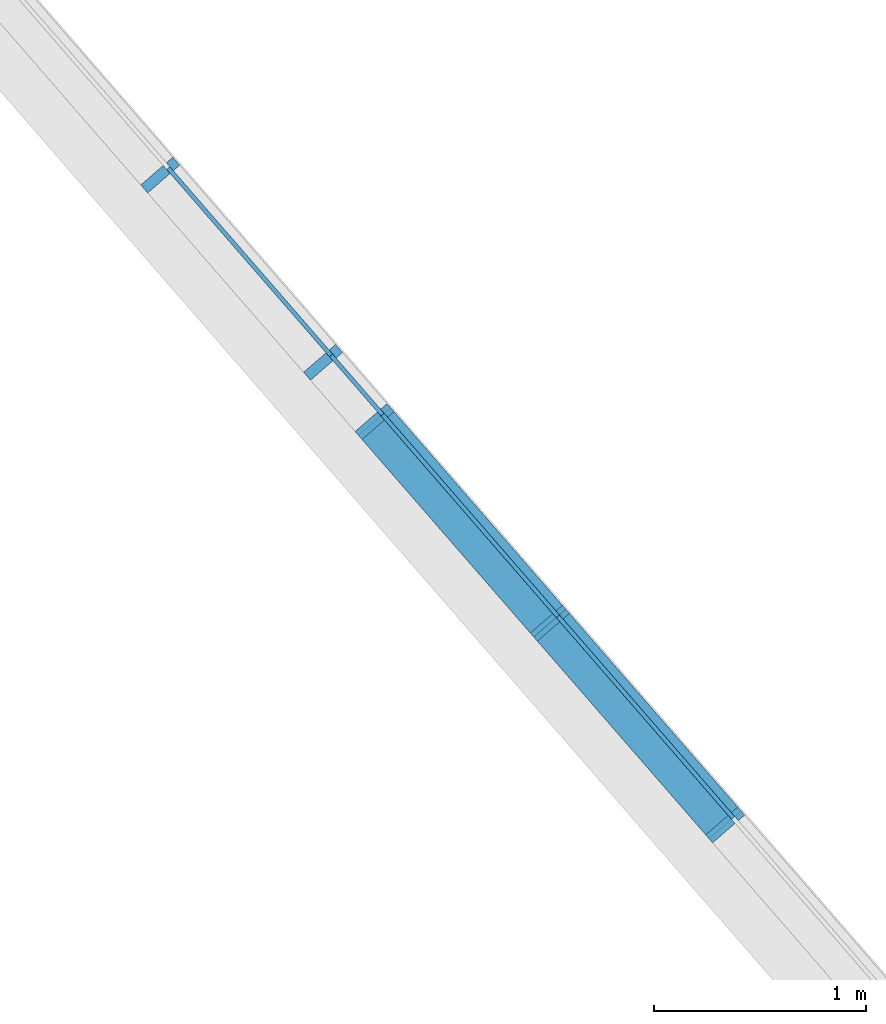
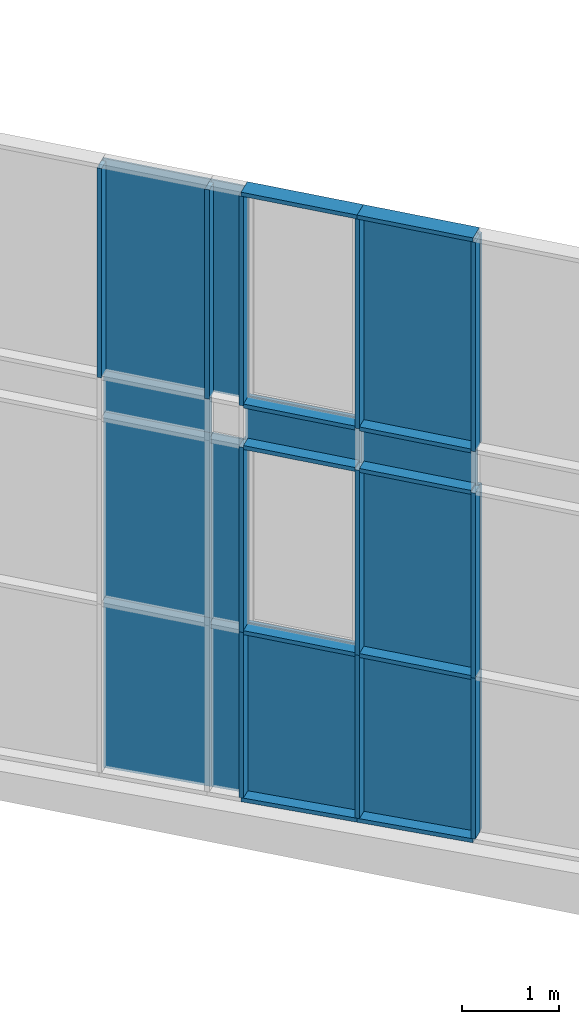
# One storey, part 49 of 390: 34 discrete accessories, 1 element without a shape of its own.
"""IFC2X3 building model written with IfcOpenShell, lengths in millimetres."""

import ifcopenshell
import ifcopenshell.guid

model = None  # the IFC model being written
_history = None  # IfcOwnerHistory: only IFC2X3 demands one
_inside = {}  # id of a spatial element -> (the spatial element, [elements in it])
_under = {}  # id of a project, library or spatial element -> (it, [spatial elements below it])
_declared = {}  # id of a project -> (the project, [libraries it declares])
_typed = {}  # id of a type object -> (the type object, [elements of that type])
_made_of = {}  # id of a material, layer set ... -> (it, [elements and type objects made of it])


def new_model(schema):
    """Start an empty IFC model of exactly this schema.

    Asked for "IFC4X3", IfcOpenShell would pick the latest addendum, in which some entities
    have other attributes; the version numbers below select the first issue.
    IFC2X3 requires an IfcOwnerHistory on every rooted entity: one is made here for all.
    """
    global model, _history
    if schema == "IFC4X3":
        model = ifcopenshell.file(schema_version=(4, 3, 0, 0))
    else:
        model = ifcopenshell.file(schema=schema)
    _inside.clear()
    _under.clear()
    _declared.clear()
    _typed.clear()
    _made_of.clear()
    _history = None
    if model.schema == "IFC2X3":
        org = make("IfcOrganization", Name="unknown")
        user = make(
            "IfcPersonAndOrganization",
            ThePerson=make("IfcPerson", FamilyName="unknown"),
            TheOrganization=org,
        )
        app = make(
            "IfcApplication",
            ApplicationDeveloper=org,
            Version="unknown",
            ApplicationFullName="unknown",
            ApplicationIdentifier="unknown",
        )
        _history = make(
            "IfcOwnerHistory",
            OwningUser=user,
            OwningApplication=app,
            ChangeAction="ADDED",
            CreationDate=0,
        )
    return model


def make(cls, **values):
    """One entity of the class cls with the attributes given. An attribute that is None is left unset."""
    return model.create_entity(
        cls, **{name: value for name, value in values.items() if value is not None}
    )


def entity(cls, *values):
    """Any entity or typed value of the class cls, its attributes in the order of the schema. None: left unset."""
    e = model.create_entity(cls)
    for i, value in enumerate(values):
        if value is not None:
            e[i] = value
    return e


def rooted(cls, **values):
    """An entity with a GlobalId (a new one), such as an element, a storey or a relation."""
    return make(cls, GlobalId=ifcopenshell.guid.new(), OwnerHistory=_history, **values)


def si_unit(unit_type, name, prefix=None):
    """IfcSIUnit, for example si_unit("LENGTHUNIT", "METRE", prefix="MILLI")."""
    return make("IfcSIUnit", UnitType=unit_type, Prefix=prefix, Name=name)


def converted_unit(unit_type, name, factor, base, dimensions=None, offset=None):
    """IfcConversionBasedUnit, such as the inch: factor (a typed value) times the base unit."""
    return make(
        "IfcConversionBasedUnit"
        if offset is None
        else "IfcConversionBasedUnitWithOffset",
        ConversionOffset=offset,
        Dimensions=None
        if dimensions is None
        else entity("IfcDimensionalExponents", *dimensions),
        UnitType=unit_type,
        Name=name,
        ConversionFactor=make(
            "IfcMeasureWithUnit", ValueComponent=factor, UnitComponent=base
        ),
    )


def derived_unit(unit_type, elements):
    """IfcDerivedUnit: a product of units, each with its exponent."""
    return make(
        "IfcDerivedUnit",
        Elements=[
            make("IfcDerivedUnitElement", Unit=unit, Exponent=power)
            for unit, power in elements
        ],
        UnitType=unit_type,
    )


def money_unit(currency):
    """IfcMonetaryUnit."""
    return make("IfcMonetaryUnit", Currency=currency)


def assignment(units):
    """IfcUnitAssignment: the units of a project."""
    return None if units is None else make("IfcUnitAssignment", Units=units)


def point(xyz):
    """IfcCartesianPoint."""
    return None if xyz is None else make("IfcCartesianPoint", Coordinates=xyz)


def direction(xyz):
    """IfcDirection."""
    return None if xyz is None else make("IfcDirection", DirectionRatios=xyz)


def frame(location, z_axis=None, x_axis=None):
    """IfcAxis2Placement3D, a coordinate frame: its origin and axes. An axis left out is left unset."""
    return make(
        "IfcAxis2Placement3D",
        Location=point(location),
        Axis=direction(z_axis),
        RefDirection=direction(x_axis),
    )


def origin_with_axes():
    """The frame at (0, 0, 0) with the z axis (0, 0, 1) and the x axis (1, 0, 0) written out."""
    return frame((0.0, 0.0, 0.0), z_axis=(0.0, 0.0, 1.0), x_axis=(1.0, 0.0, 0.0))


def place(relative_to, where):
    """IfcLocalPlacement: puts the frame where relative to a parent placement (None: the world)."""
    return make(
        "IfcLocalPlacement", PlacementRelTo=relative_to, RelativePlacement=where
    )


def context(
    kind, dimensions, precision=None, world=None, true_north=None, identifier=None
):
    """IfcGeometricRepresentationContext, for example the 3D "Model" context."""
    return make(
        "IfcGeometricRepresentationContext",
        ContextIdentifier=identifier,
        ContextType=kind,
        CoordinateSpaceDimension=dimensions,
        Precision=precision,
        WorldCoordinateSystem=world,
        TrueNorth=true_north,
    )


def subcontext(parent, identifier, kind, view, scale=None):
    """IfcGeometricRepresentationSubContext, for example "Body" below "Model"."""
    return make(
        "IfcGeometricRepresentationSubContext",
        ContextIdentifier=identifier,
        ContextType=kind,
        ParentContext=parent,
        TargetScale=scale,
        TargetView=view,
    )


def project(units=None, contexts=None):
    """IfcProject with its units and contexts."""
    return rooted(
        "IfcProject",
        Name="project",
        RepresentationContexts=contexts,
        UnitsInContext=assignment(units),
    )


def spatial(cls, under=None, at=None, **own):
    """A site, building, storey or space (cls), placed at a placement, below another one or the project."""
    s = rooted(cls, ObjectPlacement=at, **own)
    if under is not None:
        _under.setdefault(under.id(), (under, []))[1].append(s)
    return s


def polyline(points):
    """IfcPolyline through the points."""
    return make("IfcPolyline", Points=[point(p) for p in points])


def outline(outer, holes=None, kind="AREA"):
    """IfcArbitraryClosedProfileDef: a profile drawn as a closed curve; with holes, ...WithVoids."""
    if holes is None:
        return make("IfcArbitraryClosedProfileDef", ProfileType=kind, OuterCurve=outer)
    return make(
        "IfcArbitraryProfileDefWithVoids",
        ProfileType=kind,
        OuterCurve=outer,
        InnerCurves=holes,
    )


def extrude(swept, where, along, depth):
    """IfcExtrudedAreaSolid: the profile swept, set in the frame where, extruded along a direction by depth."""
    return make(
        "IfcExtrudedAreaSolid",
        SweptArea=swept,
        Position=where,
        ExtrudedDirection=direction(along),
        Depth=depth,
    )


def clip(a, b, op="DIFFERENCE"):
    """IfcBooleanClippingResult: the solid a cut by the half space b."""
    return make(
        "IfcBooleanClippingResult", Operator=op, FirstOperand=a, SecondOperand=b
    )


def halfspace(plane, agree):
    """IfcHalfSpaceSolid: all space on one side of the plane z = 0 of the frame plane."""
    return make(
        "IfcHalfSpaceSolid",
        BaseSurface=make("IfcPlane", Position=plane),
        AgreementFlag=agree,
    )


def shape(context_of_items, identifier, shape_type, items):
    """IfcShapeRepresentation: the items that make up one representation, for example the "Body"."""
    return make(
        "IfcShapeRepresentation",
        ContextOfItems=context_of_items,
        RepresentationIdentifier=identifier,
        RepresentationType=shape_type,
        Items=items,
    )


def material(Name=None, Category=None):
    """IfcMaterial."""
    return make("IfcMaterial", Name=Name, Category=Category)


def material_list(materials):
    """IfcMaterialList."""
    return make("IfcMaterialList", Materials=materials)


def made_of(thing, what):
    """Note that an element or type object is made of a material, layer set ...; save() writes the relation."""
    if what is not None:
        _made_of.setdefault(what.id(), (what, []))[1].append(thing)
    return thing


def type_object(cls, material=None, **own):
    """A type object (cls), such as IfcWallType, which elements share."""
    return made_of(rooted(cls, **own), material)


def element(
    cls,
    number,
    at=None,
    inside=None,
    cuts=None,
    type_object=None,
    material=None,
    context=None,
    identifier="Body",
    shape_type=None,
    held_by="IfcProductDefinitionShape",
    body=None,
    shapes=None,
    **own,
):
    """One element of the class cls, such as IfcWall. Its Tag is "e" and its number.

    at: its placement. inside: the storey or other place that contains it. cuts: it is an
    opening in that element (IfcRelVoidsElement). A single representation is given by context,
    identifier, shape_type and body (its items); several are given by shapes. held_by: the class
    of the entity that holds the representations. save() writes the other relations.
    """
    e = rooted(cls, Tag="e%d" % number, ObjectPlacement=at, **own)
    if body is not None:
        shapes = [shape(context, identifier, shape_type, body)]
    if shapes is not None:
        e.Representation = make(held_by, Representations=shapes)
    if inside is not None:
        _inside.setdefault(inside.id(), (inside, []))[1].append(e)
    if cuts is not None:
        rooted(
            "IfcRelVoidsElement", RelatingBuildingElement=cuts, RelatedOpeningElement=e
        )
    if type_object is not None:
        _typed.setdefault(type_object.id(), (type_object, []))[1].append(e)
    return made_of(e, material)


def aggregate(whole, parts):
    """IfcRelAggregates: a whole, such as a stair, and the parts it consists of."""
    return rooted("IfcRelAggregates", RelatingObject=whole, RelatedObjects=parts)


def save(model, path):
    """Write the relations noted so far, then the file.

    IfcRelAggregates (storeys below a building ...), IfcRelContainedInSpatialStructure (elements
    in a storey), IfcRelDefinesByType, IfcRelAssociatesMaterial and IfcRelDeclares: one each for
    every whole, place, type object, material and project.
    """
    for whole, parts in _under.values():
        aggregate(whole, parts)
    for where, things in _inside.values():
        rooted(
            "IfcRelContainedInSpatialStructure",
            RelatedElements=things,
            RelatingStructure=where,
        )
    for kind, things in _typed.values():
        rooted("IfcRelDefinesByType", RelatedObjects=things, RelatingType=kind)
    for what, things in _made_of.values():
        rooted("IfcRelAssociatesMaterial", RelatedObjects=things, RelatingMaterial=what)
    for by, libraries in _declared.values():
        rooted("IfcRelDeclares", RelatingContext=by, RelatedDefinitions=libraries)
    model.write(path)


model = new_model("IFC2X3")

# Units and contexts
model_context = context("Model", 3, precision=1e-05, world=origin_with_axes(), true_north=direction((0.0, 1.0)))
body_context = subcontext(model_context, "Body", "Model", "MODEL_VIEW")
ifc_project = project(units=[si_unit("LENGTHUNIT", "METRE", prefix="MILLI"), si_unit("AREAUNIT", "SQUARE_METRE"), si_unit("VOLUMEUNIT", "CUBIC_METRE"), converted_unit("PLANEANGLEUNIT", "DEGREE", entity("IfcPlaneAngleMeasure", 0.0174532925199), si_unit("PLANEANGLEUNIT", "RADIAN"), dimensions=[0, 0, 0, 0, 0, 0, 0]), si_unit("SOLIDANGLEUNIT", "STERADIAN"), money_unit("EUR"), converted_unit("TIMEUNIT", "Year", entity("IfcTimeMeasure", 31556926.0), si_unit("TIMEUNIT", "SECOND"), dimensions=[0, 0, 1, 0, 0, 0, 0]), si_unit("MASSUNIT", "GRAM", prefix="KILO"), si_unit("THERMODYNAMICTEMPERATUREUNIT", "DEGREE_CELSIUS"), si_unit("LUMINOUSINTENSITYUNIT", "LUMEN"), si_unit("ENERGYUNIT", "JOULE", prefix="MEGA"), derived_unit("THERMALCONDUCTANCEUNIT", [(si_unit("POWERUNIT", "WATT"), 1), (si_unit("LENGTHUNIT", "METRE"), -1), (si_unit("THERMODYNAMICTEMPERATUREUNIT", "KELVIN"), -1)]), derived_unit("SPECIFICHEATCAPACITYUNIT", [(si_unit("ENERGYUNIT", "JOULE"), 1), (si_unit("MASSUNIT", "GRAM", prefix="KILO"), -1), (si_unit("THERMODYNAMICTEMPERATUREUNIT", "KELVIN"), -1)]), derived_unit("MASSDENSITYUNIT", [(si_unit("MASSUNIT", "GRAM", prefix="KILO"), 1), (si_unit("VOLUMEUNIT", "CUBIC_METRE"), -1)])], contexts=[model_context])

# Site, building, storey
site_placement = place(None, origin_with_axes())
site = spatial("IfcSite", under=ifc_project, at=site_placement, Name="Site", CompositionType="ELEMENT")
building_placement = place(site_placement, origin_with_axes())
building = spatial("IfcBuilding", under=site, at=building_placement, Name="Building", CompositionType="ELEMENT")
storey_placement = place(building_placement, origin_with_axes())
storey = spatial("IfcBuildingStorey", under=building, at=storey_placement, Name="1 korrus", CompositionType="ELEMENT", Elevation=0.0)

# Curtain wall, discrete accessories
curtain_wall_type = type_object("IfcCurtainWallType", Name="KLF-17", PredefinedType="NOTDEFINED")
curtain_wall_placement = place(storey_placement, frame((175630.823927, 104534.758561, -0.000216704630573), z_axis=(0.0, 0.0, 1.0), x_axis=(1.0, 0.0, 0.0)))
curtain_wall = element("IfcCurtainWall", 1, at=curtain_wall_placement, inside=storey, type_object=curtain_wall_type, Name="Klaasfassaad")
ifc_material_1 = material(Name="Klaas")
discrete_accessory_type_1 = type_object("IfcDiscreteAccessoryType", Name="1260 x 2076 x 20")
discrete_accessory_1_placement = place(curtain_wall_placement, frame((0.0, 0.0, 1359.25339851), z_axis=(0.0, 0.0, 1.0), x_axis=(-0.65605902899, 0.754709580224, 0.0)))
discrete_accessory_1 = element("IfcDiscreteAccessory", 2, at=discrete_accessory_1_placement, type_object=discrete_accessory_type_1, material=ifc_material_1, Name="KLF-17 klaaspakett", context=body_context, shape_type="SweptSolid", body=[
    extrude(outline(polyline([(-629.999988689, -1040.7468182), (629.999995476, -1040.7468182), (629.999995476, 1035.44442819), (-629.999988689, 1006.03832027), (-629.999988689, -1040.7468182)])), frame((0.0, -10.0000000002, 0.0), z_axis=(0.0, 1.0, 0.0), x_axis=(1.0, 0.0, 0.0)), (0.0, 0.0, 1.0), 20.0000000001),
])
discrete_accessory_type_2 = type_object("IfcDiscreteAccessoryType", Name="370 x 2655 x 20")
discrete_accessory_2_placement = place(curtain_wall_placement, frame((-1361.32248515, 1566.02237896, 6577.50341211), z_axis=(0.0, 0.0, 1.0), x_axis=(-0.65605902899, 0.754709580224, 0.0)))
discrete_accessory_2 = element("IfcDiscreteAccessory", 3, at=discrete_accessory_2_placement, type_object=discrete_accessory_type_2, material=ifc_material_1, Name="KLF-17 klaaspakett", context=body_context, shape_type="SweptSolid", body=[
    extrude(outline(polyline([(-185.000030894, -1317.50318898), (184.999988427, -1317.50318898), (184.999988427, 1337.50319541), (-184.999991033, 1337.50319541), (-185.000030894, -1317.50318898)])), frame((0.0, -10.0, 0.0), z_axis=(0.0, 1.0, 0.0), x_axis=(1.0, 0.0, 0.0)), (0.0, 0.0, 1.0), 20.0),
])
discrete_accessory_type_3 = type_object("IfcDiscreteAccessoryType", Name="1260 x 2655 x 20")
discrete_accessory_3_placement = place(curtain_wall_placement, frame((0.0, 0.0, 6577.50341211), z_axis=(0.0, 0.0, 1.0), x_axis=(-0.65605902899, 0.754709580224, 0.0)))
discrete_accessory_3 = element("IfcDiscreteAccessory", 4, at=discrete_accessory_3_placement, type_object=discrete_accessory_type_3, material=ifc_material_1, Name="KLF-17 klaaspakett", context=body_context, shape_type="SweptSolid", body=[
    extrude(outline(polyline([(-630.000018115, -1317.50318898), (629.999988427, -1317.50318898), (629.999988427, 1337.50319541), (-630.000018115, 1337.50319541), (-630.000018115, -1317.50318898)])), frame((0.0, -10.0000000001, 0.0), z_axis=(0.0, 1.0, 0.0), x_axis=(1.0, 0.0, 0.0)), (0.0, 0.0, 1.0), 20.0),
])
discrete_accessory_type_4 = type_object("IfcDiscreteAccessoryType", Name="1170 x 2655 x 20")
discrete_accessory_4_placement = place(curtain_wall_placement, frame((-1866.48793748, 2147.14875574, 6577.50341211), z_axis=(0.0, 0.0, 1.0), x_axis=(-0.65605902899, 0.754709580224, 0.0)))
discrete_accessory_4 = element("IfcDiscreteAccessory", 5, at=discrete_accessory_4_placement, type_object=discrete_accessory_type_4, material=ifc_material_1, Name="KLF-17 klaaspakett", context=body_context, shape_type="SweptSolid", body=[
    extrude(outline(polyline([(-585.000009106, -1317.50318898), (584.999988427, -1317.50318898), (584.999988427, 1337.50319541), (-585.000009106, 1337.50319541), (-585.000009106, -1317.50318898)])), frame((0.0, -9.99999999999, 0.0), z_axis=(0.0, 1.0, 0.0), x_axis=(1.0, 0.0, 0.0)), (0.0, 0.0, 1.0), 20.0),
])
discrete_accessory_type_5 = type_object("IfcDiscreteAccessoryType", Name="370 x 2114 x 20")
discrete_accessory_5_placement = place(curtain_wall_placement, frame((-1361.32248515, 1566.02237896, 1335.03993347), z_axis=(0.0, 0.0, 1.0), x_axis=(-0.65605902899, 0.754709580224, 0.0)))
discrete_accessory_5 = element("IfcDiscreteAccessory", 6, at=discrete_accessory_5_placement, type_object=discrete_accessory_type_5, material=ifc_material_1, Name="KLF-17 klaaspakett", context=body_context, shape_type="SweptSolid", body=[
    extrude(outline(polyline([(-184.99999513, -1064.96028658), (184.999999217, -1064.96028658), (184.999999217, 1049.27235021), (-184.999963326, 1040.63729788), (-184.99999513, -1064.96028658)])), frame((0.0, -10.0, 0.0), z_axis=(0.0, 1.0, 0.0), x_axis=(1.0, 0.0, 0.0)), (0.0, 0.0, 1.0), 20.0),
])
discrete_accessory_type_6 = type_object("IfcDiscreteAccessoryType", Name="1170 x 2142 x 20")
discrete_accessory_6_placement = place(curtain_wall_placement, frame((-1866.48793748, 2147.14875574, 1326.05470399), z_axis=(0.0, 0.0, 1.0), x_axis=(-0.65605902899, 0.754709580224, 0.0)))
discrete_accessory_6 = element("IfcDiscreteAccessory", 7, at=discrete_accessory_6_placement, type_object=discrete_accessory_type_6, material=ifc_material_1, Name="KLF-17 klaaspakett", context=body_context, shape_type="SweptSolid", body=[
    extrude(outline(polyline([(-585.000011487, -1073.94552027), (585.000003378, -1073.94552027), (585.000003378, 1067.59295889), (-585.000011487, 1040.28716319), (-585.000011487, -1073.94552027)])), frame((0.0, -9.99999999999, 0.0), z_axis=(0.0, 1.0, 0.0), x_axis=(1.0, 0.0, 0.0)), (0.0, 0.0, 1.0), 20.0000000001),
])
discrete_accessory_type_7 = type_object("IfcDiscreteAccessoryType", Name="1170 x 2320 x 20")
discrete_accessory_7_placement = place(curtain_wall_placement, frame((-1866.48793748, 2147.14875574, 3560.0002167), z_axis=(0.0, 0.0, 1.0), x_axis=(-0.65605902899, 0.754709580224, 0.0)))
discrete_accessory_7 = element("IfcDiscreteAccessory", 8, at=discrete_accessory_7_placement, type_object=discrete_accessory_type_7, material=ifc_material_1, Name="KLF-17 klaaspakett", context=body_context, shape_type="SweptSolid", body=[
    extrude(outline(polyline([(-584.999996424, -1160.0), (585.000001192, -1160.0), (585.000001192, 1160.0), (-584.999996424, 1160.0), (-584.999996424, -1160.0)])), frame((0.0, -10.0, 0.0), z_axis=(0.0, 1.0, 0.0), x_axis=(1.0, 0.0, 0.0)), (0.0, 0.0, 1.0), 20.0),
])
discrete_accessory_type_8 = type_object("IfcDiscreteAccessoryType", Name="1260 x 2320 x 20")
discrete_accessory_8_placement = place(curtain_wall_placement, frame((0.0, 0.0, 3560.0002167), z_axis=(0.0, 0.0, 1.0), x_axis=(-0.65605902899, 0.754709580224, 0.0)))
discrete_accessory_8 = element("IfcDiscreteAccessory", 9, at=discrete_accessory_8_placement, type_object=discrete_accessory_type_8, material=ifc_material_1, Name="KLF-17 klaaspakett", context=body_context, shape_type="SweptSolid", body=[
    extrude(outline(polyline([(-630.000009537, -1160.0), (630.000001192, -1160.0), (630.000001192, 1160.0), (-630.000009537, 1160.0), (-630.000009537, -1160.0)])), frame((0.0, -10.0000000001, 0.0), z_axis=(0.0, 1.0, 0.0), x_axis=(1.0, 0.0, 0.0)), (0.0, 0.0, 1.0), 20.0),
])
discrete_accessory_type_9 = type_object("IfcDiscreteAccessoryType", Name="370 x 2320 x 20")
discrete_accessory_9_placement = place(curtain_wall_placement, frame((-1361.32248515, 1566.02237896, 3560.0002167), z_axis=(0.0, 0.0, 1.0), x_axis=(-0.65605902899, 0.754709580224, 0.0)))
discrete_accessory_9 = element("IfcDiscreteAccessory", 10, at=discrete_accessory_9_placement, type_object=discrete_accessory_type_9, material=ifc_material_1, Name="KLF-17 klaaspakett", context=body_context, shape_type="SweptSolid", body=[
    extrude(outline(polyline([(-185.000014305, -1160.0), (185.000001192, -1160.0), (185.000001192, 1160.0), (-185.000014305, 1160.0), (-185.000014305, -1160.0)])), frame((0.0, -9.99999999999, 0.0), z_axis=(0.0, 1.0, 0.0), x_axis=(1.0, 0.0, 0.0)), (0.0, 0.0, 1.0), 20.0),
])
discrete_accessory_type_10 = type_object("IfcDiscreteAccessoryType", Name="1260 x 520 x 20")
discrete_accessory_10_placement = place(curtain_wall_placement, frame((0.0, 0.0, 4980.0002167), z_axis=(0.0, 0.0, 1.0), x_axis=(-0.65605902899, 0.754709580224, 0.0)))
discrete_accessory_10 = element("IfcDiscreteAccessory", 11, at=discrete_accessory_10_placement, type_object=discrete_accessory_type_10, material=ifc_material_1, Name="KLF-17 klaaspakett", context=body_context, shape_type="SweptSolid", body=[
    extrude(outline(polyline([(-630.000003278, -259.999999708), (630.000003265, -259.999999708), (630.000003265, 260.0), (-630.000003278, 260.0), (-630.000003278, -259.999999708)])), frame((0.0, -9.99999999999, 0.0), z_axis=(0.0, 1.0, 0.0), x_axis=(1.0, 0.0, 0.0)), (0.0, 0.0, 1.0), 20.0),
])
discrete_accessory_11_placement = place(curtain_wall_placement, frame((-826.634376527, 950.934071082, 4980.0002167), z_axis=(0.0, 0.0, 1.0), x_axis=(-0.65605902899, 0.754709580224, 0.0)))
discrete_accessory_11 = element("IfcDiscreteAccessory", 12, at=discrete_accessory_11_placement, type_object=discrete_accessory_type_10, material=ifc_material_1, Name="KLF-17 klaaspakett", context=body_context, shape_type="SweptSolid", body=[
    extrude(outline(polyline([(-630.000003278, -259.999999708), (630.000003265, -259.999999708), (630.000003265, 260.0), (-630.000003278, 260.0), (-630.000003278, -259.999999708)])), frame((0.0, -9.99999999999, 0.0), z_axis=(0.0, 1.0, 0.0), x_axis=(1.0, 0.0, 0.0)), (0.0, 0.0, 1.0), 20.0),
])
discrete_accessory_type_11 = type_object("IfcDiscreteAccessoryType", Name="1170 x 520 x 20")
discrete_accessory_12_placement = place(curtain_wall_placement, frame((-1866.48793748, 2147.14875574, 4980.0002167), z_axis=(0.0, 0.0, 1.0), x_axis=(-0.65605902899, 0.754709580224, 0.0)))
discrete_accessory_12 = element("IfcDiscreteAccessory", 13, at=discrete_accessory_12_placement, type_object=discrete_accessory_type_11, material=ifc_material_1, Name="KLF-17 klaaspakett", context=body_context, shape_type="SweptSolid", body=[
    extrude(outline(polyline([(-585.000006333, -259.999991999), (585.000006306, -260.000009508), (585.000006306, 260.0), (-585.000006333, 260.0), (-585.000006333, -259.999991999)])), frame((0.0, -10.0, 0.0), z_axis=(0.0, 1.0, 0.0), x_axis=(1.0, 0.0, 0.0)), (0.0, 0.0, 1.0), 20.0),
])
discrete_accessory_type_12 = type_object("IfcDiscreteAccessoryType", Name="1260 x 2106 x 20")
discrete_accessory_13_placement = place(curtain_wall_placement, frame((-826.634376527, 950.934071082, 1344.55028992), z_axis=(0.0, 0.0, 1.0), x_axis=(-0.65605902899, 0.754709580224, 0.0)))
discrete_accessory_13 = element("IfcDiscreteAccessory", 14, at=discrete_accessory_13_placement, type_object=discrete_accessory_type_12, material=ifc_material_1, Name="KLF-17 klaaspakett", context=body_context, shape_type="SweptSolid", body=[
    extrude(outline(polyline([(-630.000001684, -1055.44992678), (629.999987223, -1055.44992678), (629.999987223, 1050.14763001), (-629.999970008, 1020.74131476), (-630.000001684, -1055.44992678)])), frame((0.0, -10.0000000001, 0.0), z_axis=(0.0, 1.0, 0.0), x_axis=(1.0, 0.0, 0.0)), (0.0, 0.0, 1.0), 20.0000000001),
])
ifc_material_2 = material(Name="Aluminium MUST")
ifc_material_list = material_list([ifc_material_2, ifc_material_2])
discrete_accessory_type_13 = type_object("IfcDiscreteAccessoryType", Name="50 x 200")
discrete_accessory_14_placement = place(curtain_wall_placement, frame((-413.317188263, 475.467035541, 5240.0002167), z_axis=(0.0, 0.0, 1.0), x_axis=(-0.65605902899, 0.754709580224, 0.0)))
discrete_accessory_14 = element("IfcDiscreteAccessory", 15, at=discrete_accessory_14_placement, type_object=discrete_accessory_type_13, material=ifc_material_list, Name="KLF-17 profiil", context=body_context, shape_type="SweptSolid", body=[
    extrude(outline(polyline([(-129.607912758, -79.5411148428), (-96.8049613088, -117.276593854), (8.85437992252, -25.4283297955), (-23.9485715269, 12.3071492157), (-129.607912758, -79.5411148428)])), frame((0.0, 0.0, 0.0), z_axis=(0.0, 0.0, 1.0), x_axis=(-0.65605902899, -0.754709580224, 0.0)), (0.0, 0.0, 1.0), 2625.00639082),
    extrude(outline(polyline([(54.1369547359, 13.9352119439), (21.3340032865, 51.6706909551), (-8.8543799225, 25.4283297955), (23.948571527, -12.3071492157), (54.1369547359, 13.9352119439)])), frame((0.0, 0.0, 0.0), z_axis=(0.0, 0.0, 1.0), x_axis=(-0.65605902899, -0.754709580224, 0.0)), (0.0, 0.0, 1.0), 2625.00639082),
])
discrete_accessory_15_placement = place(curtain_wall_placement, frame((-1239.95156479, 1426.40110662, 5240.0002167), z_axis=(0.0, 0.0, 1.0), x_axis=(-0.65605902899, 0.754709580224, 0.0)))
discrete_accessory_15 = element("IfcDiscreteAccessory", 16, at=discrete_accessory_15_placement, type_object=discrete_accessory_type_13, material=ifc_material_list, Name="KLF-17 profiil", context=body_context, shape_type="SweptSolid", body=[
    extrude(outline(polyline([(-129.607912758, -79.5411148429), (-96.8049613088, -117.276593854), (8.85437992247, -25.4283297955), (-23.948571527, 12.3071492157), (-129.607912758, -79.5411148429)])), frame((0.0, 0.0, 0.0), z_axis=(0.0, 0.0, 1.0), x_axis=(-0.65605902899, -0.754709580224, 0.0)), (0.0, 0.0, 1.0), 2625.00639082),
    extrude(outline(polyline([(54.1369547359, 13.9352119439), (21.3340032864, 51.670690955), (-8.8543799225, 25.4283297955), (23.9485715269, -12.3071492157), (54.1369547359, 13.9352119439)])), frame((0.0, 0.0, 0.0), z_axis=(0.0, 0.0, 1.0), x_axis=(-0.65605902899, -0.754709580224, 0.0)), (0.0, 0.0, 1.0), 2625.00639082),
])
discrete_accessory_16_placement = place(curtain_wall_placement, frame((-1482.69340552, 1705.64365131, 5240.0002167), z_axis=(0.0, 0.0, 1.0), x_axis=(-0.65605902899, 0.754709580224, 0.0)))
discrete_accessory_16 = element("IfcDiscreteAccessory", 17, at=discrete_accessory_16_placement, type_object=discrete_accessory_type_13, material=ifc_material_list, Name="KLF-17 profiil", context=body_context, shape_type="SweptSolid", body=[
    extrude(outline(polyline([(-129.607912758, -79.5411148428), (-96.8049613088, -117.276593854), (8.85437992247, -25.4283297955), (-23.948571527, 12.3071492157), (-129.607912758, -79.5411148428)])), frame((0.0, 0.0, 0.0), z_axis=(0.0, 0.0, 1.0), x_axis=(-0.65605902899, -0.754709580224, 0.0)), (0.0, 0.0, 1.0), 2625.00639082),
    extrude(outline(polyline([(54.1369547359, 13.9352119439), (21.3340032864, 51.6706909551), (-8.85437992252, 25.4283297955), (23.948571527, -12.3071492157), (54.1369547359, 13.9352119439)])), frame((0.0, 0.0, 0.0), z_axis=(0.0, 0.0, 1.0), x_axis=(-0.65605902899, -0.754709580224, 0.0)), (0.0, 0.0, 1.0), 2625.00639082),
])
discrete_accessory_17_placement = place(curtain_wall_placement, frame((-2250.28246943, 2588.65386017, 5240.0002167), z_axis=(0.0, 0.0, 1.0), x_axis=(-0.65605902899, 0.754709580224, 0.0)))
discrete_accessory_17 = element("IfcDiscreteAccessory", 18, at=discrete_accessory_17_placement, type_object=discrete_accessory_type_13, material=ifc_material_list, Name="KLF-17 profiil", context=body_context, shape_type="SweptSolid", body=[
    extrude(outline(polyline([(-129.607912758, -79.5411148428), (-96.8049613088, -117.276593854), (8.85437992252, -25.4283297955), (-23.948571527, 12.3071492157), (-129.607912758, -79.5411148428)])), frame((0.0, 0.0, 0.0), z_axis=(0.0, 0.0, 1.0), x_axis=(-0.65605902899, -0.754709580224, 0.0)), (0.0, 0.0, 1.0), 2625.00639082),
    extrude(outline(polyline([(54.1369547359, 13.9352119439), (21.3340032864, 51.670690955), (-8.8543799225, 25.4283297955), (23.948571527, -12.3071492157), (54.1369547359, 13.9352119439)])), frame((0.0, 0.0, 0.0), z_axis=(0.0, 0.0, 1.0), x_axis=(-0.65605902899, -0.754709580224, 0.0)), (0.0, 0.0, 1.0), 2625.00639082),
])
discrete_accessory_18_placement = place(curtain_wall_placement, frame((-413.317188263, 475.467035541, 7915.00660752), z_axis=(0.65605902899, -0.754709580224, 0.0), x_axis=(0.0, 0.0, 1.0)))
discrete_accessory_18 = element("IfcDiscreteAccessory", 19, at=discrete_accessory_18_placement, type_object=discrete_accessory_type_13, Name="KLF-17 profiil", context=body_context, shape_type="SweptSolid", body=[
    extrude(outline(polyline([(10.0, 25.0), (-10.0, 25.0), (-10.0, 0.0), (10.0, 0.0), (10.0, 25.0)])), frame((0.0, 0.0, 0.0), z_axis=(0.0, 0.0, 1.0), x_axis=(0.0, 1.0, 0.0)), (0.0, 0.0, 1.0), 1260.0),
    extrude(outline(polyline([(150.0, 50.0), (10.0, 50.0), (10.0, 0.0), (150.0, 0.0), (150.0, 50.0)])), frame((0.0, 0.0, 0.0), z_axis=(0.0, 0.0, 1.0), x_axis=(0.0, 1.0, 0.0)), (0.0, 0.0, 1.0), 1260.0),
    extrude(outline(polyline([(-50.0, 0.0), (-10.0, 0.0), (-10.0, 50.0), (-50.0, 50.0), (-50.0, 0.0)])), frame((0.0, 0.0, 0.0), z_axis=(0.0, 0.0, 1.0), x_axis=(0.0, 1.0, 0.0)), (0.0, 0.0, 1.0), 1260.0),
])
discrete_accessory_19_placement = place(curtain_wall_placement, frame((-1239.95156479, 1426.40110662, 7915.00660752), z_axis=(0.65605902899, -0.754709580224, 0.0), x_axis=(0.0, 0.0, 1.0)))
discrete_accessory_19 = element("IfcDiscreteAccessory", 20, at=discrete_accessory_19_placement, type_object=discrete_accessory_type_13, Name="KLF-17 profiil", context=body_context, shape_type="SweptSolid", body=[
    extrude(outline(polyline([(9.99999999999, 25.0), (-10.0, 25.0), (-10.0, 0.0), (9.99999999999, 0.0), (9.99999999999, 25.0)])), frame((0.0, 0.0, 0.0), z_axis=(0.0, 0.0, 1.0), x_axis=(0.0, 1.0, 0.0)), (0.0, 0.0, 1.0), 1260.0),
    extrude(outline(polyline([(150.0, 50.0), (9.99999999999, 50.0), (9.99999999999, 0.0), (150.0, 0.0), (150.0, 50.0)])), frame((0.0, 0.0, 0.0), z_axis=(0.0, 0.0, 1.0), x_axis=(0.0, 1.0, 0.0)), (0.0, 0.0, 1.0), 1260.0),
    extrude(outline(polyline([(-50.0, 0.0), (-10.0, 0.0), (-10.0, 50.0), (-50.0, 50.0), (-50.0, 0.0)])), frame((0.0, 0.0, 0.0), z_axis=(0.0, 0.0, 1.0), x_axis=(0.0, 1.0, 0.0)), (0.0, 0.0, 1.0), 1260.0),
])
discrete_accessory_20_placement = place(curtain_wall_placement, frame((-413.317188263, 475.467035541, 5240.0002167), z_axis=(0.65605902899, -0.754709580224, 0.0), x_axis=(0.0, 0.0, 1.0)))
discrete_accessory_20 = element("IfcDiscreteAccessory", 21, at=discrete_accessory_20_placement, type_object=discrete_accessory_type_13, material=ifc_material_list, Name="KLF-17 profiil", context=body_context, shape_type="SweptSolid", body=[
    extrude(outline(polyline([(150.0, -25.0), (150.0, 25.0), (9.99999999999, 25.0), (9.99999999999, -25.0), (150.0, -25.0)])), frame((0.0, 0.0, 25.0), z_axis=(0.0, 0.0, 1.0), x_axis=(0.0, 1.0, 0.0)), (0.0, 0.0, 1.0), 1210.0),
    extrude(outline(polyline([(-50.0, 25.0), (-50.0, -25.0), (-10.0, -25.0), (-10.0, 25.0), (-50.0, 25.0)])), frame((0.0, 0.0, 25.0), z_axis=(0.0, 0.0, 1.0), x_axis=(0.0, 1.0, 0.0)), (0.0, 0.0, 1.0), 1210.0),
])
discrete_accessory_21_placement = place(curtain_wall_placement, frame((-1239.95156479, 1426.40110662, 5240.0002167), z_axis=(0.65605902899, -0.754709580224, 0.0), x_axis=(0.0, 0.0, 1.0)))
discrete_accessory_21 = element("IfcDiscreteAccessory", 22, at=discrete_accessory_21_placement, type_object=discrete_accessory_type_13, material=ifc_material_list, Name="KLF-17 profiil", context=body_context, shape_type="SweptSolid", body=[
    extrude(outline(polyline([(150.0, -25.0), (150.0, 25.0), (9.99999999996, 25.0), (9.99999999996, -25.0), (150.0, -25.0)])), frame((0.0, 0.0, 25.0), z_axis=(0.0, 0.0, 1.0), x_axis=(0.0, 1.0, 0.0)), (0.0, 0.0, 1.0), 1210.0),
    extrude(outline(polyline([(-50.0, 25.0), (-50.0, -25.0), (-10.0, -25.0), (-10.0, 25.0), (-50.0, 25.0)])), frame((0.0, 0.0, 25.0), z_axis=(0.0, 0.0, 1.0), x_axis=(0.0, 1.0, 0.0)), (0.0, 0.0, 1.0), 1210.0),
])
discrete_accessory_22_placement = place(curtain_wall_placement, frame((413.317188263, -475.467035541, 5240.0002167), z_axis=(0.0, 0.0, 1.0), x_axis=(-0.65605902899, 0.754709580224, 0.0)))
discrete_accessory_22 = element("IfcDiscreteAccessory", 23, at=discrete_accessory_22_placement, type_object=discrete_accessory_type_13, material=ifc_material_list, Name="KLF-17 profiil", context=body_context, shape_type="SweptSolid", body=[
    extrude(outline(polyline([(-129.607912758, -79.5411148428), (-96.8049613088, -117.276593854), (8.85437992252, -25.4283297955), (-23.948571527, 12.3071492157), (-129.607912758, -79.5411148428)])), frame((0.0, 0.0, 0.0), z_axis=(0.0, 0.0, 1.0), x_axis=(-0.65605902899, -0.754709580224, 0.0)), (0.0, 0.0, 1.0), 2625.00639082),
    extrude(outline(polyline([(54.1369547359, 13.9352119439), (21.3340032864, 51.6706909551), (-8.8543799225, 25.4283297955), (23.948571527, -12.3071492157), (54.1369547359, 13.9352119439)])), frame((0.0, 0.0, 0.0), z_axis=(0.0, 0.0, 1.0), x_axis=(-0.65605902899, -0.754709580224, 0.0)), (0.0, 0.0, 1.0), 2625.00639082),
])
discrete_accessory_23_placement = place(curtain_wall_placement, frame((-1239.95156479, 1426.40110662, 274.39719074), z_axis=(0.655880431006, -0.754504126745, 0.0233320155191), x_axis=(-0.0153071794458, 0.0176088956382, 0.999727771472)))
discrete_accessory_23 = element("IfcDiscreteAccessory", 24, at=discrete_accessory_23_placement, type_object=discrete_accessory_type_13, Name="KLF-17 profiil", context=body_context, shape_type="SweptSolid", body=[
    extrude(outline(polyline([(9.99999999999, -25.0), (9.99999999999, 0.0), (-9.99999999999, 0.0), (-10.0, -25.0), (9.99999999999, -25.0)])), frame((0.0, 0.0, -7.79802888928e-06), z_axis=(0.0, 0.0, 1.0), x_axis=(0.0, 1.0, 0.0)), (0.0, 0.0, 1.0), 1260.34311421),
    extrude(outline(polyline([(150.0, -50.0), (150.0, 0.0), (9.99999999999, 0.0), (9.99999999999, -50.0), (150.0, -50.0)])), frame((0.0, 0.0, -7.79798625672e-06), z_axis=(0.0, 0.0, 1.0), x_axis=(0.0, 1.0, 0.0)), (0.0, 0.0, 1.0), 1260.34311421),
    extrude(outline(polyline([(-50.0, 0.0), (-50.0, -50.0), (-9.99999999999, -50.0), (-9.99999999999, 0.0), (-50.0, 0.0)])), frame((0.0, 0.0, -7.79802888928e-06), z_axis=(0.0, 0.0, 1.0), x_axis=(0.0, 1.0, 0.0)), (0.0, 0.0, 1.0), 1260.34311421),
])
discrete_accessory_24_placement = place(curtain_wall_placement, frame((-1239.95156479, 1426.40110662, 274.39719074), z_axis=(0.0, 0.0, 1.0), x_axis=(-0.65605902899, 0.754709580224, 0.0)))
discrete_accessory_24 = element("IfcDiscreteAccessory", 25, at=discrete_accessory_24_placement, type_object=discrete_accessory_type_13, material=ifc_material_list, Name="KLF-17 profiil", context=body_context, shape_type="Clipping", body=[
    clip(extrude(outline(polyline([(-129.607912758, -79.5411148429), (-96.8049613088, -117.276593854), (8.85437992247, -25.4283297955), (-23.948571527, 12.3071492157), (-129.607912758, -79.5411148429)])), frame((0.0, 0.0, 49.4301633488), z_axis=(0.0, 0.0, 1.0), x_axis=(-0.65605902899, -0.754709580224, 0.0)), (0.0, 0.0, 1.0), 2076.17286262), halfspace(frame((1.1665851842, 0.0, 49.9863889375), z_axis=(0.0233317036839, 0.0, 0.999727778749), x_axis=(0.0, -1.0, 0.0)), True)),
    clip(extrude(outline(polyline([(54.1369547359, 13.9352119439), (21.3340032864, 51.670690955), (-8.8543799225, 25.4283297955), (23.9485715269, -12.3071492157), (54.1369547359, 13.9352119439)])), frame((0.0, 0.0, 49.4301633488), z_axis=(0.0, 0.0, 1.0), x_axis=(-0.65605902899, -0.754709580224, 0.0)), (0.0, 0.0, 1.0), 2076.17286262), halfspace(frame((1.1665851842, 0.0, 49.9863889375), z_axis=(0.0233317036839, 0.0, 0.999727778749), x_axis=(0.0, -1.0, 0.0)), True)),
])
discrete_accessory_25_placement = place(curtain_wall_placement, frame((-413.317188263, 475.467035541, 303.80353554), z_axis=(0.0, 0.0, 1.0), x_axis=(-0.65605902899, 0.754709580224, 0.0)))
discrete_accessory_25 = element("IfcDiscreteAccessory", 26, at=discrete_accessory_25_placement, type_object=discrete_accessory_type_13, material=ifc_material_list, Name="KLF-17 profiil", context=body_context, shape_type="Clipping", body=[
    clip(extrude(outline(polyline([(-129.607912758, -79.5411148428), (-96.8049613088, -117.276593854), (8.85437992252, -25.4283297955), (-23.9485715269, 12.3071492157), (-129.607912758, -79.5411148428)])), frame((0.0, 0.0, 49.4301559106), z_axis=(0.0, 0.0, 1.0), x_axis=(-0.65605902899, -0.754709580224, 0.0)), (0.0, 0.0, 1.0), 2046.76652525), halfspace(frame((1.16660077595, 0.0, 49.9863885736), z_axis=(0.0233320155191, 0.0, 0.999727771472), x_axis=(0.0, -1.0, 0.0)), True)),
    clip(extrude(outline(polyline([(54.1369547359, 13.9352119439), (21.3340032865, 51.6706909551), (-8.8543799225, 25.4283297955), (23.948571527, -12.3071492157), (54.1369547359, 13.9352119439)])), frame((0.0, 0.0, 49.4301559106), z_axis=(0.0, 0.0, 1.0), x_axis=(-0.65605902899, -0.754709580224, 0.0)), (0.0, 0.0, 1.0), 2046.76652525), halfspace(frame((1.16660077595, 0.0, 49.9863885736), z_axis=(0.0233320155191, 0.0, 0.999727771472), x_axis=(0.0, -1.0, 0.0)), True)),
])
discrete_accessory_26_placement = place(curtain_wall_placement, frame((413.317188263, -475.467035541, 333.209625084), z_axis=(0.0, 0.0, 1.0), x_axis=(-0.65605902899, 0.754709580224, 0.0)))
discrete_accessory_26 = element("IfcDiscreteAccessory", 27, at=discrete_accessory_26_placement, type_object=discrete_accessory_type_13, material=ifc_material_list, Name="KLF-17 profiil", context=body_context, shape_type="Clipping", body=[
    clip(extrude(outline(polyline([(-129.607912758, -79.5411148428), (-96.8049613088, -117.276593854), (8.85437992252, -25.4283297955), (-23.948571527, 12.3071492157), (-129.607912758, -79.5411148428)])), frame((0.0, 0.0, 49.4301607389), z_axis=(0.0, 0.0, 1.0), x_axis=(-0.65605902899, -0.754709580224, 0.0)), (0.0, 0.0, 1.0), 2017.36043088), halfspace(frame((1.16659065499, 0.0, 49.9863888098), z_axis=(0.0233318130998, 0.0, 0.999727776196), x_axis=(0.0, -1.0, 0.0)), True)),
    clip(extrude(outline(polyline([(54.1369547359, 13.9352119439), (21.3340032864, 51.6706909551), (-8.8543799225, 25.4283297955), (23.948571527, -12.3071492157), (54.1369547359, 13.9352119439)])), frame((0.0, 0.0, 49.4301607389), z_axis=(0.0, 0.0, 1.0), x_axis=(-0.65605902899, -0.754709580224, 0.0)), (0.0, 0.0, 1.0), 2017.36043088), halfspace(frame((1.16659065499, 0.0, 49.9863888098), z_axis=(0.0233318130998, 0.0, 0.999727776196), x_axis=(0.0, -1.0, 0.0)), True)),
])
discrete_accessory_27_placement = place(curtain_wall_placement, frame((-1239.95156479, 1426.40110662, 2400.0002167), z_axis=(0.0, 0.0, 1.0), x_axis=(-0.65605902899, 0.754709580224, 0.0)))
discrete_accessory_27 = element("IfcDiscreteAccessory", 28, at=discrete_accessory_27_placement, type_object=discrete_accessory_type_13, material=ifc_material_list, Name="KLF-17 profiil", context=body_context, shape_type="SweptSolid", body=[
    extrude(outline(polyline([(-129.607912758, -79.5411148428), (-96.8049613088, -117.276593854), (8.8543799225, -25.4283297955), (-23.948571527, 12.3071492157), (-129.607912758, -79.5411148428)])), frame((0.0, 0.0, 0.0), z_axis=(0.0, 0.0, 1.0), x_axis=(-0.65605902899, -0.754709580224, 0.0)), (0.0, 0.0, 1.0), 2320.0),
    extrude(outline(polyline([(54.1369547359, 13.9352119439), (21.3340032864, 51.670690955), (-8.8543799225, 25.4283297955), (23.948571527, -12.3071492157), (54.1369547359, 13.9352119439)])), frame((0.0, 0.0, 0.0), z_axis=(0.0, 0.0, 1.0), x_axis=(-0.65605902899, -0.754709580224, 0.0)), (0.0, 0.0, 1.0), 2320.0),
])
discrete_accessory_28_placement = place(curtain_wall_placement, frame((-413.317188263, 475.467035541, 2400.0002167), z_axis=(0.0, 0.0, 1.0), x_axis=(-0.65605902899, 0.754709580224, 0.0)))
discrete_accessory_28 = element("IfcDiscreteAccessory", 29, at=discrete_accessory_28_placement, type_object=discrete_accessory_type_13, material=ifc_material_list, Name="KLF-17 profiil", context=body_context, shape_type="SweptSolid", body=[
    extrude(outline(polyline([(-129.607912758, -79.5411148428), (-96.8049613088, -117.276593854), (8.85437992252, -25.4283297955), (-23.9485715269, 12.3071492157), (-129.607912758, -79.5411148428)])), frame((0.0, 0.0, 0.0), z_axis=(0.0, 0.0, 1.0), x_axis=(-0.65605902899, -0.754709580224, 0.0)), (0.0, 0.0, 1.0), 2320.0),
    extrude(outline(polyline([(54.1369547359, 13.9352119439), (21.3340032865, 51.6706909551), (-8.8543799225, 25.4283297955), (23.948571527, -12.3071492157), (54.1369547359, 13.9352119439)])), frame((0.0, 0.0, 0.0), z_axis=(0.0, 0.0, 1.0), x_axis=(-0.65605902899, -0.754709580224, 0.0)), (0.0, 0.0, 1.0), 2320.0),
])
discrete_accessory_29_placement = place(curtain_wall_placement, frame((-1239.95156479, 1426.40110662, 2400.0002167), z_axis=(0.65605902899, -0.754709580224, 0.0), x_axis=(0.0, 0.0, 1.0)))
discrete_accessory_29 = element("IfcDiscreteAccessory", 30, at=discrete_accessory_29_placement, type_object=discrete_accessory_type_13, material=ifc_material_list, Name="KLF-17 profiil", context=body_context, shape_type="SweptSolid", body=[
    extrude(outline(polyline([(150.0, -25.0), (150.0, 25.0), (9.99999999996, 25.0), (9.99999999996, -25.0), (150.0, -25.0)])), frame((0.0, 0.0, 25.0), z_axis=(0.0, 0.0, 1.0), x_axis=(0.0, 1.0, 0.0)), (0.0, 0.0, 1.0), 1210.0),
    extrude(outline(polyline([(-50.0, 25.0), (-50.0, -25.0), (-10.0, -25.0), (-10.0, 25.0), (-50.0, 25.0)])), frame((0.0, 0.0, 25.0), z_axis=(0.0, 0.0, 1.0), x_axis=(0.0, 1.0, 0.0)), (0.0, 0.0, 1.0), 1210.0),
])
discrete_accessory_30_placement = place(curtain_wall_placement, frame((413.317188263, -475.467035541, 2400.0002167), z_axis=(0.0, 0.0, 1.0), x_axis=(-0.65605902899, 0.754709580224, 0.0)))
discrete_accessory_30 = element("IfcDiscreteAccessory", 31, at=discrete_accessory_30_placement, type_object=discrete_accessory_type_13, material=ifc_material_list, Name="KLF-17 profiil", context=body_context, shape_type="SweptSolid", body=[
    extrude(outline(polyline([(-129.607912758, -79.5411148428), (-96.8049613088, -117.276593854), (8.85437992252, -25.4283297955), (-23.948571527, 12.3071492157), (-129.607912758, -79.5411148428)])), frame((0.0, 0.0, 0.0), z_axis=(0.0, 0.0, 1.0), x_axis=(-0.65605902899, -0.754709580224, 0.0)), (0.0, 0.0, 1.0), 2320.0),
    extrude(outline(polyline([(54.1369547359, 13.9352119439), (21.3340032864, 51.6706909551), (-8.8543799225, 25.4283297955), (23.948571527, -12.3071492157), (54.1369547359, 13.9352119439)])), frame((0.0, 0.0, 0.0), z_axis=(0.0, 0.0, 1.0), x_axis=(-0.65605902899, -0.754709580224, 0.0)), (0.0, 0.0, 1.0), 2320.0),
])
discrete_accessory_31_placement = place(curtain_wall_placement, frame((-413.317188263, 475.467035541, 4720.0002167), z_axis=(0.65605902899, -0.754709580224, 0.0), x_axis=(0.0, 0.0, 1.0)))
discrete_accessory_31 = element("IfcDiscreteAccessory", 32, at=discrete_accessory_31_placement, type_object=discrete_accessory_type_13, material=ifc_material_list, Name="KLF-17 profiil", context=body_context, shape_type="SweptSolid", body=[
    extrude(outline(polyline([(150.0, -25.0), (150.0, 25.0), (9.99999999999, 25.0), (9.99999999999, -25.0), (150.0, -25.0)])), frame((0.0, 0.0, 25.0), z_axis=(0.0, 0.0, 1.0), x_axis=(0.0, 1.0, 0.0)), (0.0, 0.0, 1.0), 1210.0),
    extrude(outline(polyline([(-50.0, 25.0), (-50.0, -25.0), (-10.0, -25.0), (-10.0, 25.0), (-50.0, 25.0)])), frame((0.0, 0.0, 25.0), z_axis=(0.0, 0.0, 1.0), x_axis=(0.0, 1.0, 0.0)), (0.0, 0.0, 1.0), 1210.0),
])
discrete_accessory_32_placement = place(curtain_wall_placement, frame((-1239.95156479, 1426.40110662, 4720.0002167), z_axis=(0.65605902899, -0.754709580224, 0.0), x_axis=(0.0, 0.0, 1.0)))
discrete_accessory_32 = element("IfcDiscreteAccessory", 33, at=discrete_accessory_32_placement, type_object=discrete_accessory_type_13, material=ifc_material_list, Name="KLF-17 profiil", context=body_context, shape_type="SweptSolid", body=[
    extrude(outline(polyline([(150.0, -25.0), (150.0, 25.0), (9.99999999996, 25.0), (9.99999999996, -25.0), (150.0, -25.0)])), frame((0.0, 0.0, 25.0), z_axis=(0.0, 0.0, 1.0), x_axis=(0.0, 1.0, 0.0)), (0.0, 0.0, 1.0), 1210.0),
    extrude(outline(polyline([(-50.0, 25.0), (-50.0, -25.0), (-10.0, -25.0), (-10.0, 25.0), (-50.0, 25.0)])), frame((0.0, 0.0, 25.0), z_axis=(0.0, 0.0, 1.0), x_axis=(0.0, 1.0, 0.0)), (0.0, 0.0, 1.0), 1210.0),
])
discrete_accessory_33_placement = place(curtain_wall_placement, frame((-413.317188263, 475.467035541, 2400.0002167), z_axis=(0.65605902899, -0.754709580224, 0.0), x_axis=(0.0, 0.0, 1.0)))
discrete_accessory_33 = element("IfcDiscreteAccessory", 34, at=discrete_accessory_33_placement, type_object=discrete_accessory_type_13, material=ifc_material_list, Name="KLF-17 profiil", context=body_context, shape_type="SweptSolid", body=[
    extrude(outline(polyline([(150.0, -25.0), (150.0, 25.0), (9.99999999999, 25.0), (9.99999999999, -25.0), (150.0, -25.0)])), frame((0.0, 0.0, 25.0), z_axis=(0.0, 0.0, 1.0), x_axis=(0.0, 1.0, 0.0)), (0.0, 0.0, 1.0), 1210.0),
    extrude(outline(polyline([(-50.0, 25.0), (-50.0, -25.0), (-10.0, -25.0), (-10.0, 25.0), (-50.0, 25.0)])), frame((0.0, 0.0, 25.0), z_axis=(0.0, 0.0, 1.0), x_axis=(0.0, 1.0, 0.0)), (0.0, 0.0, 1.0), 1210.0),
])
discrete_accessory_34_placement = place(curtain_wall_placement, frame((-413.317188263, 475.467035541, 303.80353554), z_axis=(0.655880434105, -0.754504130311, 0.0233318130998), x_axis=(-0.0153070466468, 0.0176087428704, 0.999727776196)))
discrete_accessory_34 = element("IfcDiscreteAccessory", 35, at=discrete_accessory_34_placement, type_object=discrete_accessory_type_13, Name="KLF-17 profiil", context=body_context, shape_type="SweptSolid", body=[
    extrude(outline(polyline([(10.0, -25.0), (10.0, 0.0), (-9.99999999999, 0.0), (-9.99999999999, -25.0), (10.0, -25.0)])), frame((0.0, 0.0, -5.06187802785e-06), z_axis=(0.0, 0.0, 1.0), x_axis=(0.0, 1.0, 0.0)), (0.0, 0.0, 1.0), 1260.34310552),
    extrude(outline(polyline([(150.0, -50.0), (150.0, 0.0), (10.0, 0.0), (9.99999999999, -50.0), (150.0, -50.0)])), frame((0.0, 0.0, -5.06186381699e-06), z_axis=(0.0, 0.0, 1.0), x_axis=(0.0, 1.0, 0.0)), (0.0, 0.0, 1.0), 1260.34310552),
    extrude(outline(polyline([(-50.0, 0.0), (-50.0, -50.0), (-9.99999999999, -50.0), (-9.99999999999, 0.0), (-50.0, 0.0)])), frame((0.0, 0.0, -5.06187802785e-06), z_axis=(0.0, 0.0, 1.0), x_axis=(0.0, 1.0, 0.0)), (0.0, 0.0, 1.0), 1260.34310552),
])
aggregate(curtain_wall, [discrete_accessory_1, discrete_accessory_3, discrete_accessory_2, discrete_accessory_4, discrete_accessory_5, discrete_accessory_6, discrete_accessory_8, discrete_accessory_9, discrete_accessory_7, discrete_accessory_10, discrete_accessory_11, discrete_accessory_12, discrete_accessory_13, discrete_accessory_14, discrete_accessory_15, discrete_accessory_16, discrete_accessory_17, discrete_accessory_18, discrete_accessory_19, discrete_accessory_20, discrete_accessory_21, discrete_accessory_22, discrete_accessory_23, discrete_accessory_24, discrete_accessory_25, discrete_accessory_26, discrete_accessory_27, discrete_accessory_28, discrete_accessory_29, discrete_accessory_30, discrete_accessory_31, discrete_accessory_32, discrete_accessory_33, discrete_accessory_34])

save(model, "model.ifc")
